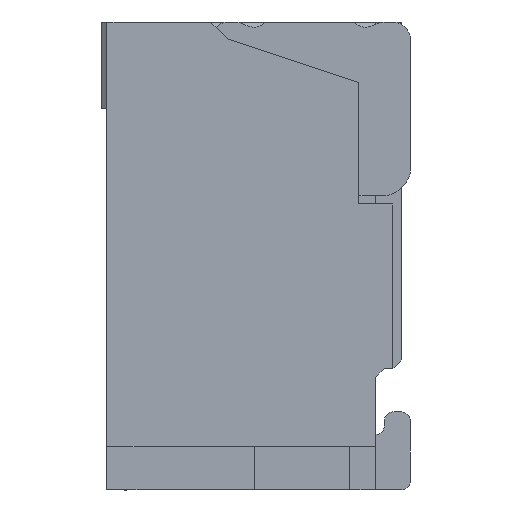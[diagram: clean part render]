
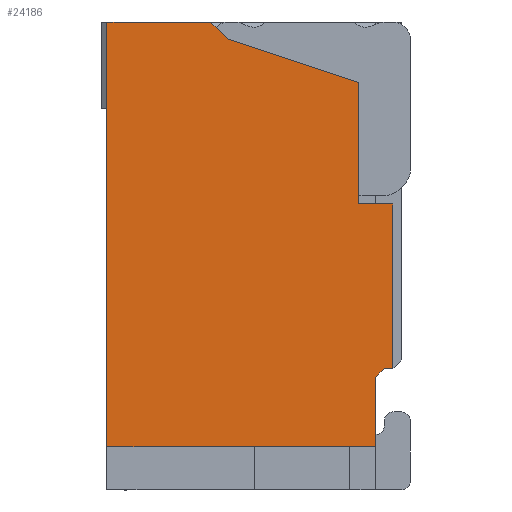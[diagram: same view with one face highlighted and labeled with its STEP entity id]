
A CAD part, left-side view. The second image highlights one B-rep face of the part: STEP entity #24186.
In plain terms, the highlighted planar face has unit normal (-1, 0, 0).
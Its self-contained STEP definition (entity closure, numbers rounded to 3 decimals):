
#489=DIRECTION('',(0.,0.,1.));
#490=VECTOR('',#489,2.45);
#491=CARTESIAN_POINT('',(-6.5,1.7,0.25));
#492=LINE('',#491,#490);
#3297=DIRECTION('',(0.,1.,0.));
#3298=VECTOR('',#3297,0.6);
#3299=CARTESIAN_POINT('',(-6.5,1.1,2.7));
#3300=LINE('',#3299,#3298);
#3301=DIRECTION('',(0.,0.707,0.707));
#3302=VECTOR('',#3301,0.141);
#3303=CARTESIAN_POINT('',(-6.5,1.,2.6));
#3304=LINE('',#3303,#3302);
#3305=DIRECTION('',(0.,0.949,0.316));
#3306=VECTOR('',#3305,0.791);
#3307=CARTESIAN_POINT('',(-6.5,0.25,2.35));
#3308=LINE('',#3307,#3306);
#3309=DIRECTION('',(0.,0.,1.));
#3310=VECTOR('',#3309,0.7);
#3311=CARTESIAN_POINT('',(-6.5,0.25,1.65));
#3312=LINE('',#3311,#3310);
#3313=DIRECTION('',(0.,1.,0.));
#3314=VECTOR('',#3313,0.2);
#3315=CARTESIAN_POINT('',(-6.5,0.05,1.65));
#3316=LINE('',#3315,#3314);
#3317=DIRECTION('',(0.,0.,1.));
#3318=VECTOR('',#3317,0.95);
#3319=CARTESIAN_POINT('',(-6.5,0.05,0.7));
#3320=LINE('',#3319,#3318);
#3321=DIRECTION('',(0.,-1.,0.));
#3322=VECTOR('',#3321,0.05);
#3323=CARTESIAN_POINT('',(-6.5,0.1,0.7));
#3324=LINE('',#3323,#3322);
#3325=DIRECTION('',(0.,-0.707,0.707));
#3326=VECTOR('',#3325,0.071);
#3327=CARTESIAN_POINT('',(-6.5,0.15,0.65));
#3328=LINE('',#3327,#3326);
#3329=DIRECTION('',(0.,0.,1.));
#3330=VECTOR('',#3329,0.4);
#3331=CARTESIAN_POINT('',(-6.5,0.15,0.25));
#3332=LINE('',#3331,#3330);
#3377=DIRECTION('',(0.,1.,0.));
#3378=VECTOR('',#3377,1.55);
#3379=CARTESIAN_POINT('',(-6.5,0.15,0.25));
#3380=LINE('',#3379,#3378);
#16115=CARTESIAN_POINT('',(-6.5,0.05,1.65));
#16116=VERTEX_POINT('',#16115);
#16117=CARTESIAN_POINT('',(-6.5,0.25,1.65));
#16118=VERTEX_POINT('',#16117);
#16143=CARTESIAN_POINT('',(-6.5,1.,2.6));
#16144=CARTESIAN_POINT('',(-6.5,1.1,2.7));
#16145=VERTEX_POINT('',#16143);
#16146=VERTEX_POINT('',#16144);
#16147=CARTESIAN_POINT('',(-6.5,0.25,2.35));
#16148=VERTEX_POINT('',#16147);
#16149=CARTESIAN_POINT('',(-6.5,0.05,0.7));
#16150=VERTEX_POINT('',#16149);
#16151=CARTESIAN_POINT('',(-6.5,0.1,0.7));
#16152=VERTEX_POINT('',#16151);
#16153=CARTESIAN_POINT('',(-6.5,0.15,0.65));
#16154=VERTEX_POINT('',#16153);
#16155=CARTESIAN_POINT('',(-6.5,0.15,0.25));
#16156=VERTEX_POINT('',#16155);
#16157=CARTESIAN_POINT('',(-6.5,1.7,0.25));
#16158=VERTEX_POINT('',#16157);
#16159=CARTESIAN_POINT('',(-6.5,1.7,2.7));
#16160=VERTEX_POINT('',#16159);
#24164=CARTESIAN_POINT('',(-6.5,0.049,2.701));
#24165=DIRECTION('',(-1.,0.,0.));
#24166=DIRECTION('',(0.,1.,0.));
#24167=AXIS2_PLACEMENT_3D('',#24164,#24165,#24166);
#24168=PLANE('',#24167);
#24169=ORIENTED_EDGE('',*,*,#20960,.F.);
#24171=ORIENTED_EDGE('',*,*,#24170,.F.);
#24173=ORIENTED_EDGE('',*,*,#24172,.F.);
#24174=ORIENTED_EDGE('',*,*,#20773,.F.);
#24175=ORIENTED_EDGE('',*,*,#20798,.F.);
#24177=ORIENTED_EDGE('',*,*,#24176,.F.);
#24178=ORIENTED_EDGE('',*,*,#24140,.F.);
#24179=ORIENTED_EDGE('',*,*,#24157,.F.);
#24180=ORIENTED_EDGE('',*,*,#21472,.F.);
#24182=ORIENTED_EDGE('',*,*,#24181,.T.);
#24183=ORIENTED_EDGE('',*,*,#21078,.T.);
#24184=EDGE_LOOP('',(#24169,#24171,#24173,#24174,#24175,#24177,#24178,#24179,
#24180,#24182,#24183));
#24185=FACE_OUTER_BOUND('',#24184,.F.);
#24186=ADVANCED_FACE('',(#24185),#24168,.T.);
#20773=EDGE_CURVE('',#16118,#16148,#3312,.T.);
#20798=EDGE_CURVE('',#16116,#16118,#3316,.T.);
#20960=EDGE_CURVE('',#16146,#16160,#3300,.T.);
#21078=EDGE_CURVE('',#16158,#16160,#492,.T.);
#21472=EDGE_CURVE('',#16156,#16154,#3332,.T.);
#24140=EDGE_CURVE('',#16152,#16150,#3324,.T.);
#24157=EDGE_CURVE('',#16154,#16152,#3328,.T.);
#24170=EDGE_CURVE('',#16145,#16146,#3304,.T.);
#24172=EDGE_CURVE('',#16148,#16145,#3308,.T.);
#24176=EDGE_CURVE('',#16150,#16116,#3320,.T.);
#24181=EDGE_CURVE('',#16156,#16158,#3380,.T.);
